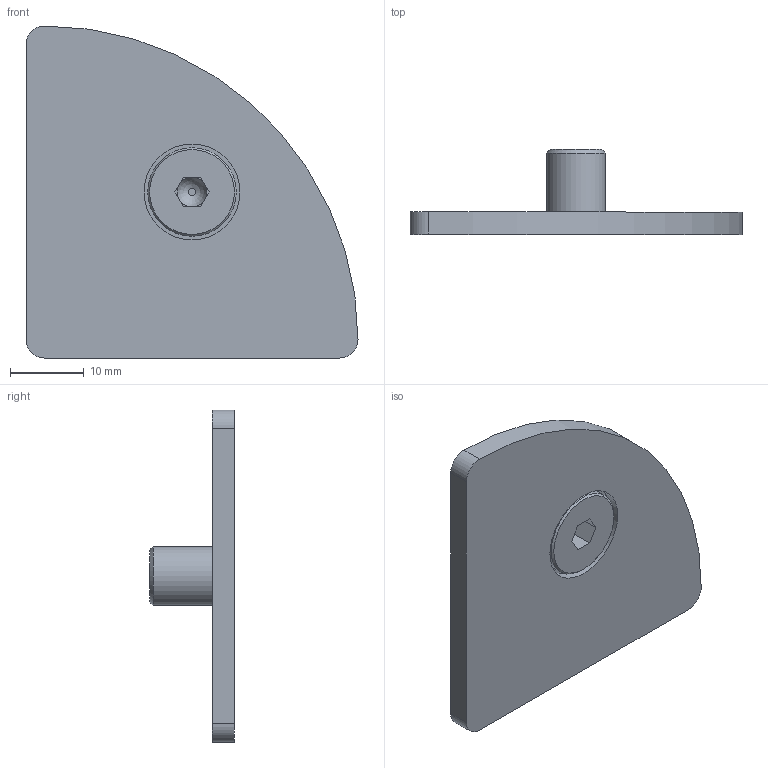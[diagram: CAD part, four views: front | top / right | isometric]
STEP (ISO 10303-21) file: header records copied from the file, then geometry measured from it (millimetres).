
FILE_DESCRIPTION((''),'2;1');
FILE_NAME('C:\Andys Backup Data\WEBSITE\DREAMWEAVER\MiniTec\Products\MiniTec_End_Caps\CAD\STEP\22.0996_2 End Cap 45R90º Alu.stp','2015-05-05T08:38:33',('amoles'),(''),'Autodesk Inventor 2012','Autodesk Inventor 2012','');
FILE_SCHEMA(('AUTOMOTIVE_DESIGN { 1 0 10303 214 1 1 1 1 }'));
Length unit declared in the file: millimetre
Products named in the file (3): 22.0996_2 End Cap 45R90º Alu; 21.1666 M8x10 Stainless ELH
Assembly tree (2 placements, depth 2):
  22.0996_2 End Cap 45R90º Alu
    22.0996_2 End Cap 45R90º Alu
    21.1666 M8x10 Stainless ELH
Bounding box: 45 x 11.5 x 45 mm (x, y, z)
Volume: 5203.7 mm3; surface area: 4327.1 mm2
Topology: 2 solids, 2 shells, 32 faces, 66 edges, 41 vertices
Faces by surface type: plane 21, cylinder 8, cone 2, revolution 1
Full cylindrical faces by diameter (mm): 8 x1, 8.5 x1, 12 x1, 13 x1
Entity records: 934 total; most frequent: DIRECTION 157, CARTESIAN_POINT 143, ORIENTED_EDGE 120, AXIS2_PLACEMENT_3D 61, EDGE_CURVE 60, EDGE_LOOP 43, VERTEX_POINT 41, VECTOR 34
